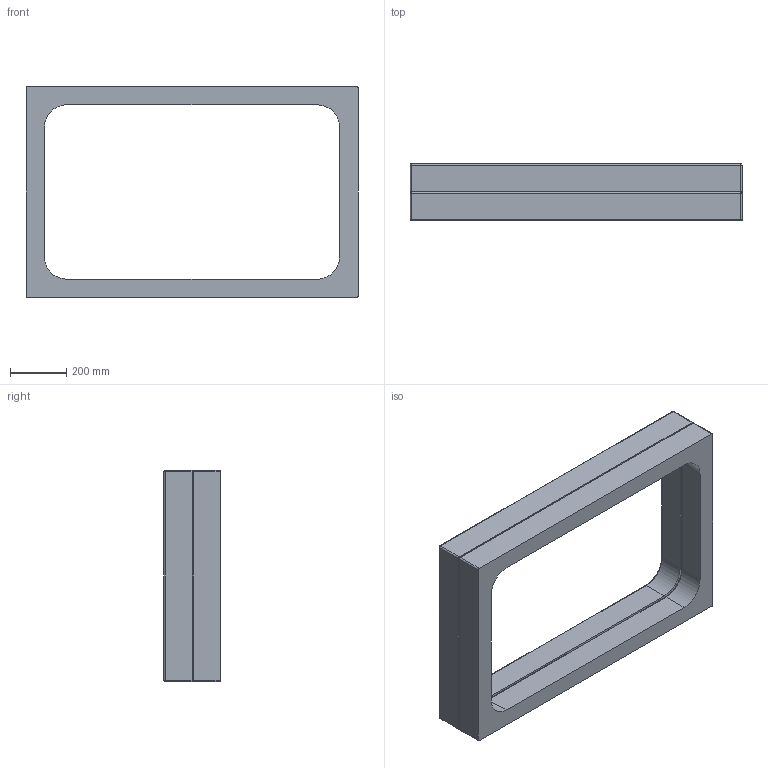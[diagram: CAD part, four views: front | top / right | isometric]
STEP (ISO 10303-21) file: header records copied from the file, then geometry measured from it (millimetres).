
FILE_DESCRIPTION (( 'STEP AP214' ), '1' );
FILE_NAME ('ADAPT 2 (betonski temelj KPL).STEP', '2026-03-11T09:16:14', ( '' ), ( '' ), 'SwSTEP 2.0', 'SolidWorks 2024', '' );
FILE_SCHEMA (( 'AUTOMOTIVE_DESIGN' ));
Length unit declared in the file: millimetre
Products named in the file (1): ADAPT 2 (betonski temelj KPL)
Bounding box: 1180 x 200 x 750 mm (x, y, z)
Volume: 46216229.6 mm3; surface area: 1939723.9 mm2
Topology: 1 solids, 5 shells, 88 faces, 186 edges, 106 vertices
Faces by surface type: cylinder 40, plane 32, bspline 8, sphere 8
Full cylindrical faces by diameter (mm): 10 x8
Entity records: 2927 total; most frequent: CARTESIAN_POINT 1161, DIRECTION 370, ORIENTED_EDGE 336, EDGE_CURVE 168, AXIS2_PLACEMENT_3D 145, VERTEX_POINT 104, EDGE_LOOP 104, FACE_OUTER_BOUND 96
